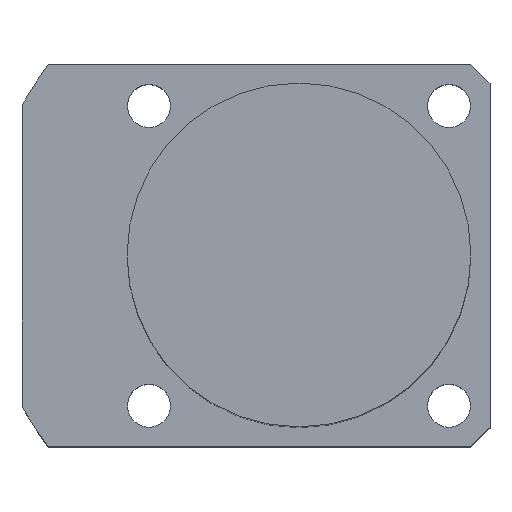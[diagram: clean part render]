
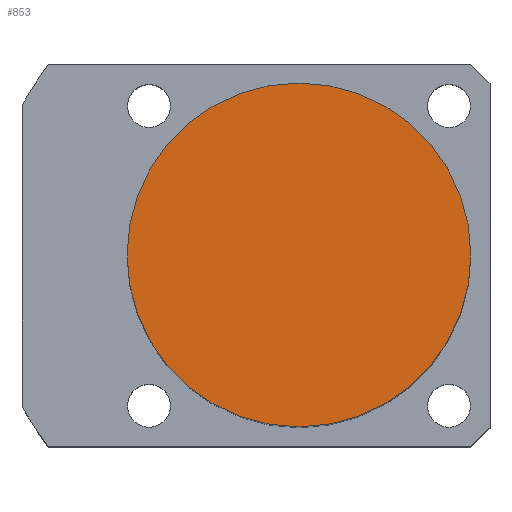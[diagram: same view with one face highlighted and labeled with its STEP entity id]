
A CAD part, top view. The second image highlights one B-rep face of the part: STEP entity #853.
In plain terms, the highlighted planar face has unit normal (0, 0, 1).
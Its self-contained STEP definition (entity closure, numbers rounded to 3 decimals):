
#32 = ORIENTED_EDGE ( 'NONE', *, *, #919, .T. ) ;
#132 = CARTESIAN_POINT ( 'NONE',  ( 0., 0., 63.5 ) ) ;
#232 = CIRCLE ( 'NONE', #1306, 18. ) ;
#282 = AXIS2_PLACEMENT_3D ( 'NONE', #531, #1856, #1565 ) ;
#438 = DIRECTION ( 'NONE',  ( 0., 0., 1. ) ) ;
#520 = DIRECTION ( 'NONE',  ( 1., 0., 0. ) ) ;
#531 = CARTESIAN_POINT ( 'NONE',  ( 0., 0., 63.5 ) ) ;
#544 = CARTESIAN_POINT ( 'NONE',  ( 0., 0., 63.5 ) ) ;
#566 = EDGE_CURVE ( 'NONE', #1769, #686, #1568, .T. ) ;
#686 = VERTEX_POINT ( 'NONE', #926 ) ;
#830 = PLANE ( 'NONE',  #282 ) ;
#853 = ADVANCED_FACE ( 'NONE', ( #1818 ), #830, .T. ) ;
#891 = EDGE_LOOP ( 'NONE', ( #1810, #32 ) ) ;
#919 = EDGE_CURVE ( 'NONE', #686, #1769, #232, .T. ) ;
#926 = CARTESIAN_POINT ( 'NONE',  ( 18., 0., 63.5 ) ) ;
#1036 = CARTESIAN_POINT ( 'NONE',  ( -18., 0., 63.5 ) ) ;
#1186 = DIRECTION ( 'NONE',  ( 1., 0., 0. ) ) ;
#1306 = AXIS2_PLACEMENT_3D ( 'NONE', #544, #1724, #520 ) ;
#1461 = AXIS2_PLACEMENT_3D ( 'NONE', #132, #438, #1186 ) ;
#1565 = DIRECTION ( 'NONE',  ( 1., 0., 0. ) ) ;
#1568 = CIRCLE ( 'NONE', #1461, 18. ) ;
#1724 = DIRECTION ( 'NONE',  ( 0., 0., 1. ) ) ;
#1769 = VERTEX_POINT ( 'NONE', #1036 ) ;
#1810 = ORIENTED_EDGE ( 'NONE', *, *, #566, .T. ) ;
#1818 = FACE_OUTER_BOUND ( 'NONE', #891, .T. ) ;
#1856 = DIRECTION ( 'NONE',  ( 0., 0., 1. ) ) ;
